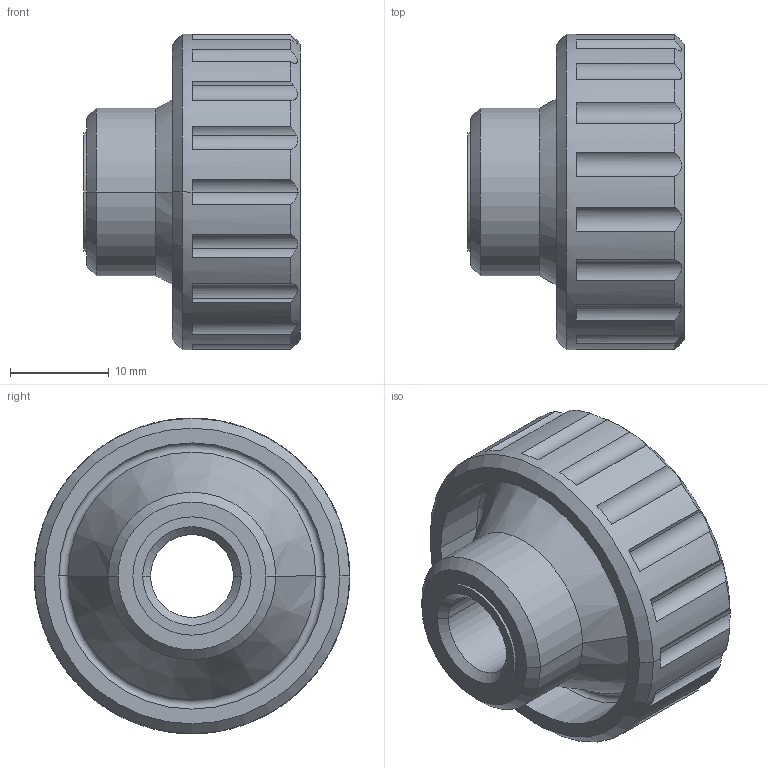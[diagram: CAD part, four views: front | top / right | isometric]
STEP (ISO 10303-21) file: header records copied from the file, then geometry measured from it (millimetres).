
FILE_DESCRIPTION (( 'STEP AP214' ), '1' );
FILE_NAME ('590-32-M10-D-ESD.step', '2025-06-16T12:57:16', ( '' ), ( '' ), 'SwSTEP 2.0', 'SolidWorks 2022', '' );
FILE_SCHEMA (( 'AUTOMOTIVE_DESIGN' ));
Length unit declared in the file: millimetre
Products named in the file (1): 590-32-M10-D-ESD
Bounding box: 22 x 32 x 32 mm (x, y, z)
Volume: 7718.3 mm3; surface area: 4541.9 mm2
Topology: 1 solids, 1 shells, 75 faces, 192 edges, 123 vertices
Faces by surface type: cylinder 37, plane 24, cone 12, torus 2
Entity records: 2661 total; most frequent: CARTESIAN_POINT 667, DIRECTION 421, ORIENTED_EDGE 384, EDGE_CURVE 192, AXIS2_PLACEMENT_3D 177, VERTEX_POINT 123, CIRCLE 101, EDGE_LOOP 81
